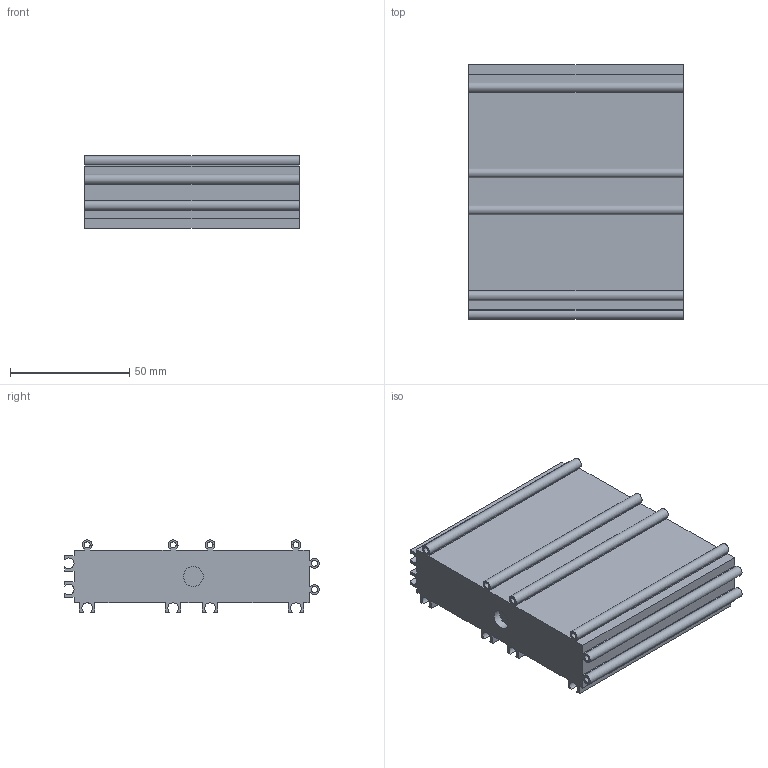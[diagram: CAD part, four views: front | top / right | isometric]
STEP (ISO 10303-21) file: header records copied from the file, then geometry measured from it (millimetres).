
FILE_DESCRIPTION(/* description */ (''),/* implementation_level */ '2;1');
FILE_NAME(/* name */ 'C:/Users/pet3r/Desktop/3D/MOJE/My Drawers/STEP/House 2x1.step',/* time_stamp */ '2018-03-31T21:33:03+02:00',/* author */ (''),/* organization */ (''),/* preprocessor_version */ 'ST-DEVELOPER v16.13',/* originating_system */ 'Autodesk Translation Framework v6.5.0.72',/* authorisation */ '');
FILE_SCHEMA (('AUTOMOTIVE_DESIGN { 1 0 10303 214 3 1 1 }'));
Length unit declared in the file: millimetre
Products named in the file (1): House 2x1
Bounding box: 90 x 106.77 x 30.27 mm (x, y, z)
Volume: 37839.3 mm3; surface area: 64166.8 mm2
Topology: 1 solids, 1 shells, 81 faces, 229 edges, 153 vertices
Faces by surface type: plane 61, cylinder 19, bspline 1
Full cylindrical faces by diameter (mm): 2.5 x6, 8.3 x1
Entity records: 2699 total; most frequent: CARTESIAN_POINT 490, ORIENTED_EDGE 458, DIRECTION 433, EDGE_CURVE 229, LINE 187, VECTOR 187, VERTEX_POINT 153, AXIS2_PLACEMENT_3D 123
